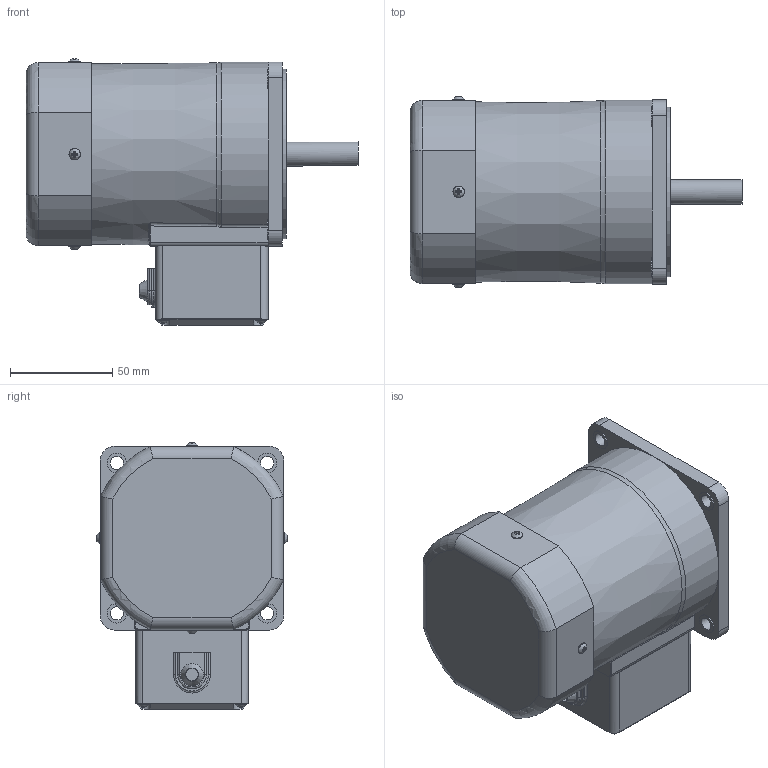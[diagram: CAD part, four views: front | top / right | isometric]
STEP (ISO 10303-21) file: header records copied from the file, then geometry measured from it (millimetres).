
FILE_DESCRIPTION((''),'2;1');
FILE_NAME('D:\STP파일\60W MOTOR\T1 BOX TYPE\S9I60K-T1.stp','2013-05-20T18:12:38',('leebh'),(''),'Autodesk Inventor 2011','Autodesk Inventor 2011','');
FILE_SCHEMA(('AUTOMOTIVE_DESIGN { 1 0 10303 214 1 1 1 1 }'));
Length unit declared in the file: millimetre
Products named in the file (1): 부품1
Bounding box: 162.41 x 93.49 x 130.55 mm (x, y, z)
Volume: 944729.7 mm3; surface area: 67811.1 mm2
Topology: 1 solids, 6 shells, 327 faces, 820 edges, 523 vertices
Faces by surface type: plane 189, cylinder 78, torus 27, bspline 26, cone 7
Full cylindrical faces by diameter (mm): 3 x4, 3.5 x4, 5.6 x8, 6.5 x4, 8 x1, 9.5 x4, 12 x1, 40 x1, 83 x1
Entity records: 10557 total; most frequent: CARTESIAN_POINT 3062, ORIENTED_EDGE 1492, DIRECTION 1417, EDGE_CURVE 746, VERTEX_POINT 511, AXIS2_PLACEMENT_3D 510, EDGE_LOOP 421, VECTOR 397
